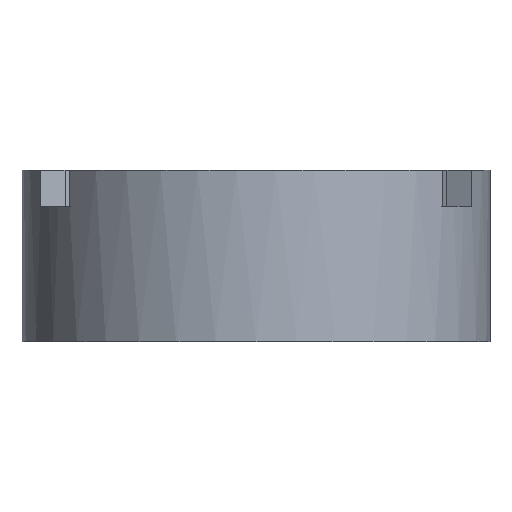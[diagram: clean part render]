
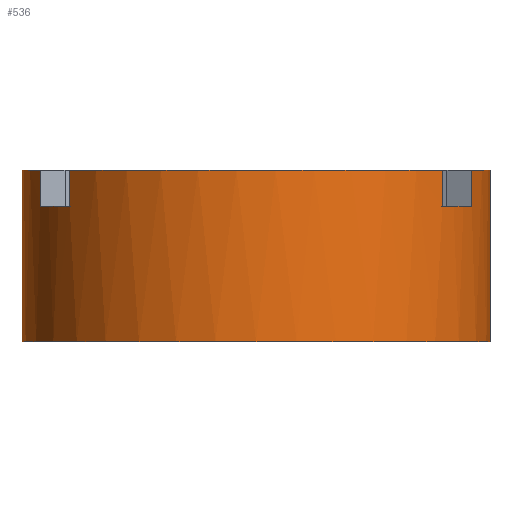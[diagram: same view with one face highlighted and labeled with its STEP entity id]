
A CAD part, front view. The second image highlights one B-rep face of the part: STEP entity #536.
In plain terms, the highlighted cylindrical face has radius 34.671 mm (diameter 69.342 mm), a partial arc.
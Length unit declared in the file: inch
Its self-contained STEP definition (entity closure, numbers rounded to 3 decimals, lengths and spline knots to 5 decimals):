
#6 = DIRECTION ( 'NONE',  ( 0., 0., -1. ) ) ;
#19 = EDGE_CURVE ( 'Defeatured_0_2+Defeatured_0_1+Defeatured_0_7+Defeatured_0_12', #252, #164, #476, .T. ) ;
#33 = DIRECTION ( 'NONE',  ( 0., 0., -1. ) ) ;
#38 = VERTEX_POINT ( 'NONE', #263 ) ;
#41 = FACE_OUTER_BOUND ( 'NONE', #329, .T. ) ;
#47 = ORIENTED_EDGE ( 'NONE', *, *, #163, .F. ) ;
#63 = CARTESIAN_POINT ( 'NONE',  ( -1.365, 0., 1. ) ) ;
#114 = ORIENTED_EDGE ( 'NONE', *, *, #312, .F. ) ;
#120 = AXIS2_PLACEMENT_3D ( 'NONE', #1077, #777, #807 ) ;
#133 = LINE ( 'NONE', #417, #917 ) ;
#135 = ORIENTED_EDGE ( 'NONE', *, *, #214, .T. ) ;
#142 = CIRCLE ( 'NONE', #980, 1.365 ) ;
#146 = CARTESIAN_POINT ( 'NONE',  ( 1.08701, -0.82562, 1. ) ) ;
#163 = EDGE_CURVE ( 'NONE', #907, #1013, #133, .T. ) ;
#164 = VERTEX_POINT ( 'NONE', #1065 ) ;
#171 = DIRECTION ( 'NONE',  ( 0., 0., 1. ) ) ;
#195 = VECTOR ( 'NONE', #1194, 39.37008 ) ;
#206 = DIRECTION ( 'NONE',  ( 0., 0., -1. ) ) ;
#214 = EDGE_CURVE ( 'Defeatured_0_1+Defeatured_0_15+Defeatured_0_2+Defeatured_0_10', #434, #38, #964, .T. ) ;
#240 = VERTEX_POINT ( 'NONE', #146 ) ;
#244 = VECTOR ( 'NONE', #337, 39.37008 ) ;
#252 = VERTEX_POINT ( 'NONE', #63 ) ;
#263 = CARTESIAN_POINT ( 'NONE',  ( 1.25851, -0.52857, 0.79 ) ) ;
#283 = CARTESIAN_POINT ( 'NONE',  ( 0., 0., 0. ) ) ;
#301 = CARTESIAN_POINT ( 'NONE',  ( -1.25851, -0.52857, 1. ) ) ;
#311 = DIRECTION ( 'NONE',  ( 0., 0., 1. ) ) ;
#312 = EDGE_CURVE ( 'Defeatured_0_14+Defeatured_0_1+Defeatured_0_2+Defeatured_0_10', #240, #695, #691, .T. ) ;
#326 = ORIENTED_EDGE ( 'NONE', *, *, #726, .T. ) ;
#329 = EDGE_LOOP ( 'NONE', ( #47, #1202, #135, #684, #114, #803, #1170, #778, #519, #448, #326, #894 ) ) ;
#337 = DIRECTION ( 'NONE',  ( 0., 0., -1. ) ) ;
#345 = CIRCLE ( 'NONE', #498, 1.365 ) ;
#362 = VECTOR ( 'NONE', #6, 39.37008 ) ;
#365 = DIRECTION ( 'NONE',  ( 1., 0., 0. ) ) ;
#382 = AXIS2_PLACEMENT_3D ( 'NONE', #578, #206, #655 ) ;
#383 = CARTESIAN_POINT ( 'NONE',  ( -1.365, 0., 0. ) ) ;
#384 = CARTESIAN_POINT ( 'NONE',  ( 1.25851, -0.52857, 1. ) ) ;
#387 = DIRECTION ( 'NONE',  ( -0.5, -0.866, 0. ) ) ;
#417 = CARTESIAN_POINT ( 'NONE',  ( 1.365, 0., 1. ) ) ;
#421 = EDGE_CURVE ( 'Defeatured_0_1+Defeatured_0_3+Defeatured_0_3+Defeatured_0_3', #722, #1013, #524, .T. ) ;
#434 = VERTEX_POINT ( 'NONE', #384 ) ;
#448 = ORIENTED_EDGE ( 'NONE', *, *, #19, .F. ) ;
#454 = CARTESIAN_POINT ( 'NONE',  ( 0., 0., 0.79 ) ) ;
#456 = DIRECTION ( 'NONE',  ( 0., 0., 1. ) ) ;
#471 = DIRECTION ( 'NONE',  ( 0., 0., -1. ) ) ;
#476 = CIRCLE ( 'NONE', #508, 1.365 ) ;
#498 = AXIS2_PLACEMENT_3D ( 'NONE', #937, #560, #387 ) ;
#504 = EDGE_CURVE ( 'Defeatured_0_12+Defeatured_0_1+Defeatured_0_2+Defeatured_0_8', #164, #893, #552, .T. ) ;
#508 = AXIS2_PLACEMENT_3D ( 'NONE', #921, #456, #365 ) ;
#519 = ORIENTED_EDGE ( 'NONE', *, *, #504, .F. ) ;
#524 = CIRCLE ( 'NONE', #678, 1.365 ) ;
#536 = ADVANCED_FACE ( 'Defeatured_0_1', ( #41 ), #656, .T. ) ;
#552 = LINE ( 'NONE', #301, #1115 ) ;
#560 = DIRECTION ( 'NONE',  ( 0., 0., 1. ) ) ;
#561 = EDGE_CURVE ( 'Defeatured_0_2+Defeatured_0_1+Defeatured_0_15+Defeatured_0_6', #434, #907, #142, .T. ) ;
#578 = CARTESIAN_POINT ( 'NONE',  ( 0., 0., 1. ) ) ;
#588 = LINE ( 'NONE', #756, #362 ) ;
#594 = CARTESIAN_POINT ( 'NONE',  ( 0., 0., 1. ) ) ;
#604 = VERTEX_POINT ( 'NONE', #752 ) ;
#650 = CARTESIAN_POINT ( 'NONE',  ( 1.08701, -0.82562, 1. ) ) ;
#655 = DIRECTION ( 'NONE',  ( -1., 0., 0. ) ) ;
#656 = CYLINDRICAL_SURFACE ( 'NONE', #382, 1.365 ) ;
#659 = DIRECTION ( 'NONE',  ( 0., 0., 1. ) ) ;
#672 = EDGE_CURVE ( 'Defeatured_0_10+Defeatured_0_1+Defeatured_0_14+Defeatured_0_15', #695, #38, #345, .T. ) ;
#678 = AXIS2_PLACEMENT_3D ( 'NONE', #283, #659, #852 ) ;
#681 = DIRECTION ( 'NONE',  ( 1., 0., 0. ) ) ;
#684 = ORIENTED_EDGE ( 'NONE', *, *, #672, .F. ) ;
#691 = LINE ( 'NONE', #650, #195 ) ;
#695 = VERTEX_POINT ( 'NONE', #847 ) ;
#709 = VERTEX_POINT ( 'NONE', #1023 ) ;
#722 = VERTEX_POINT ( 'NONE', #383 ) ;
#723 = CIRCLE ( 'NONE', #888, 1.365 ) ;
#726 = EDGE_CURVE ( 'NONE', #252, #722, #588, .T. ) ;
#752 = CARTESIAN_POINT ( 'NONE',  ( -1.08701, -0.82562, 0.79 ) ) ;
#756 = CARTESIAN_POINT ( 'NONE',  ( -1.365, 0., 1. ) ) ;
#762 = CARTESIAN_POINT ( 'NONE',  ( -1.25851, -0.52857, 0.79 ) ) ;
#777 = DIRECTION ( 'NONE',  ( 0., 0., 1. ) ) ;
#778 = ORIENTED_EDGE ( 'NONE', *, *, #1092, .F. ) ;
#803 = ORIENTED_EDGE ( 'NONE', *, *, #946, .F. ) ;
#807 = DIRECTION ( 'NONE',  ( 1., 0., 0. ) ) ;
#811 = CARTESIAN_POINT ( 'NONE',  ( 1.25851, -0.52857, 1. ) ) ;
#847 = CARTESIAN_POINT ( 'NONE',  ( 1.08701, -0.82562, 0.79 ) ) ;
#848 = VECTOR ( 'NONE', #1079, 39.37008 ) ;
#852 = DIRECTION ( 'NONE',  ( 1., 0., 0. ) ) ;
#888 = AXIS2_PLACEMENT_3D ( 'NONE', #454, #171, #1016 ) ;
#893 = VERTEX_POINT ( 'NONE', #762 ) ;
#894 = ORIENTED_EDGE ( 'NONE', *, *, #421, .T. ) ;
#895 = CARTESIAN_POINT ( 'NONE',  ( 1.365, 0., 0. ) ) ;
#907 = VERTEX_POINT ( 'NONE', #1148 ) ;
#917 = VECTOR ( 'NONE', #33, 39.37008 ) ;
#921 = CARTESIAN_POINT ( 'NONE',  ( 0., 0., 1. ) ) ;
#937 = CARTESIAN_POINT ( 'NONE',  ( 0., 0., 0.79 ) ) ;
#946 = EDGE_CURVE ( 'Defeatured_0_2+Defeatured_0_1+Defeatured_0_13+Defeatured_0_14', #709, #240, #982, .T. ) ;
#950 = LINE ( 'NONE', #1167, #244 ) ;
#964 = LINE ( 'NONE', #811, #848 ) ;
#980 = AXIS2_PLACEMENT_3D ( 'NONE', #594, #311, #681 ) ;
#982 = CIRCLE ( 'NONE', #120, 1.365 ) ;
#988 = EDGE_CURVE ( 'Defeatured_0_1+Defeatured_0_13+Defeatured_0_2+Defeatured_0_8', #709, #604, #950, .T. ) ;
#1013 = VERTEX_POINT ( 'NONE', #895 ) ;
#1016 = DIRECTION ( 'NONE',  ( -0.5, 0.866, 0. ) ) ;
#1023 = CARTESIAN_POINT ( 'NONE',  ( -1.08701, -0.82562, 1. ) ) ;
#1065 = CARTESIAN_POINT ( 'NONE',  ( -1.25851, -0.52857, 1. ) ) ;
#1077 = CARTESIAN_POINT ( 'NONE',  ( 0., 0., 1. ) ) ;
#1079 = DIRECTION ( 'NONE',  ( 0., 0., -1. ) ) ;
#1092 = EDGE_CURVE ( 'Defeatured_0_8+Defeatured_0_1+Defeatured_0_12+Defeatured_0_13', #893, #604, #723, .T. ) ;
#1115 = VECTOR ( 'NONE', #471, 39.37008 ) ;
#1148 = CARTESIAN_POINT ( 'NONE',  ( 1.365, 0., 1. ) ) ;
#1167 = CARTESIAN_POINT ( 'NONE',  ( -1.08701, -0.82562, 1. ) ) ;
#1170 = ORIENTED_EDGE ( 'NONE', *, *, #988, .T. ) ;
#1194 = DIRECTION ( 'NONE',  ( 0., 0., -1. ) ) ;
#1202 = ORIENTED_EDGE ( 'NONE', *, *, #561, .F. ) ;
